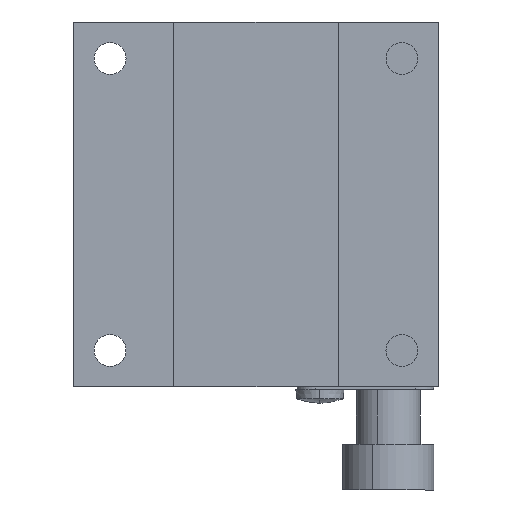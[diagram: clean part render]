
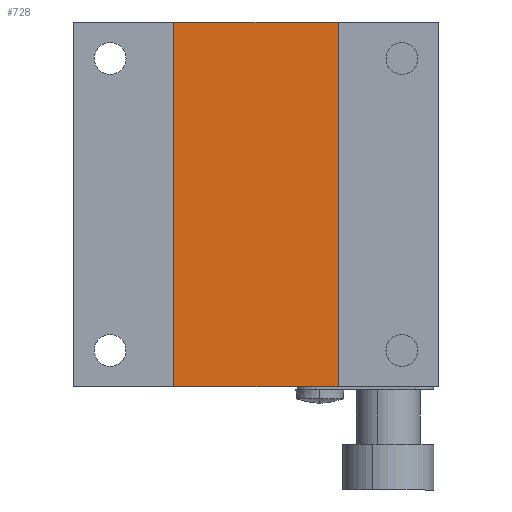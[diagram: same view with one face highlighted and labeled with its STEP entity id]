
A CAD part, front view. The second image highlights one B-rep face of the part: STEP entity #728.
In plain terms, the highlighted planar face has unit normal (0, -1, 0).
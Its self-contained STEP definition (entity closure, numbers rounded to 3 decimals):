
#636 = EDGE_LOOP ( 'NONE', ( #637, #638, #640, #642 ) ) ;
#637 = ORIENTED_EDGE ( 'NONE', *, *, #2936, .T. ) ;
#638 = ORIENTED_EDGE ( 'NONE', *, *, #639, .F. ) ;
#639 = EDGE_CURVE ( 'NONE', #2737, #2934, #4392, .T. ) ;
#640 = ORIENTED_EDGE ( 'NONE', *, *, #2736, .F. ) ;
#642 = ORIENTED_EDGE ( 'NONE', *, *, #725, .T. ) ;
#725 = EDGE_CURVE ( 'NONE', #2948, #2937, #4741, .T. ) ;
#728 = ADVANCED_FACE ( 'NONE', ( #4622 ), #4621, .F. ) ;
#2736 = EDGE_CURVE ( 'NONE', #2948, #2737, #8194, .T. ) ;
#2737 = VERTEX_POINT ( 'NONE', #8190 ) ;
#2934 = VERTEX_POINT ( 'NONE', #8392 ) ;
#2936 = EDGE_CURVE ( 'NONE', #2937, #2934, #8391, .T. ) ;
#2937 = VERTEX_POINT ( 'NONE', #8431 ) ;
#2948 = VERTEX_POINT ( 'NONE', #8497 ) ;
#4389 = DIRECTION ( 'NONE',  ( 0., 0., 1. ) ) ;
#4390 = VECTOR ( 'NONE', #4389, 1000. ) ;
#4391 = CARTESIAN_POINT ( 'NONE',  ( -9., 0.5, -20. ) ) ;
#4392 = LINE ( 'NONE', #4391, #4390 ) ;
#4617 = DIRECTION ( 'NONE',  ( 0., 0., -1. ) ) ;
#4618 = DIRECTION ( 'NONE',  ( 0., 1., 0. ) ) ;
#4619 = CARTESIAN_POINT ( 'NONE',  ( 9., 0.5, -20. ) ) ;
#4620 = AXIS2_PLACEMENT_3D ( 'NONE', #4619, #4618, #4617 ) ;
#4621 = PLANE ( 'NONE',  #4620 ) ;
#4622 = FACE_OUTER_BOUND ( 'NONE', #636, .T. ) ;
#4623 = DIRECTION ( 'NONE',  ( 0., 0., 1. ) ) ;
#4624 = VECTOR ( 'NONE', #4623, 1000. ) ;
#4625 = CARTESIAN_POINT ( 'NONE',  ( 9., 0.5, -20. ) ) ;
#4741 = LINE ( 'NONE', #4625, #4624 ) ;
#8190 = CARTESIAN_POINT ( 'NONE',  ( -9., 0.5, -20. ) ) ;
#8191 = DIRECTION ( 'NONE',  ( -1., 0., 0. ) ) ;
#8192 = VECTOR ( 'NONE', #8191, 1000. ) ;
#8193 = CARTESIAN_POINT ( 'NONE',  ( 9., 0.5, -20. ) ) ;
#8194 = LINE ( 'NONE', #8193, #8192 ) ;
#8391 = LINE ( 'NONE', #8434, #8433 ) ;
#8392 = CARTESIAN_POINT ( 'NONE',  ( -9., 0.5, 20. ) ) ;
#8431 = CARTESIAN_POINT ( 'NONE',  ( 9., 0.5, 20. ) ) ;
#8432 = DIRECTION ( 'NONE',  ( -1., 0., 0. ) ) ;
#8433 = VECTOR ( 'NONE', #8432, 1000. ) ;
#8434 = CARTESIAN_POINT ( 'NONE',  ( 9., 0.5, 20. ) ) ;
#8497 = CARTESIAN_POINT ( 'NONE',  ( 9., 0.5, -20. ) ) ;
